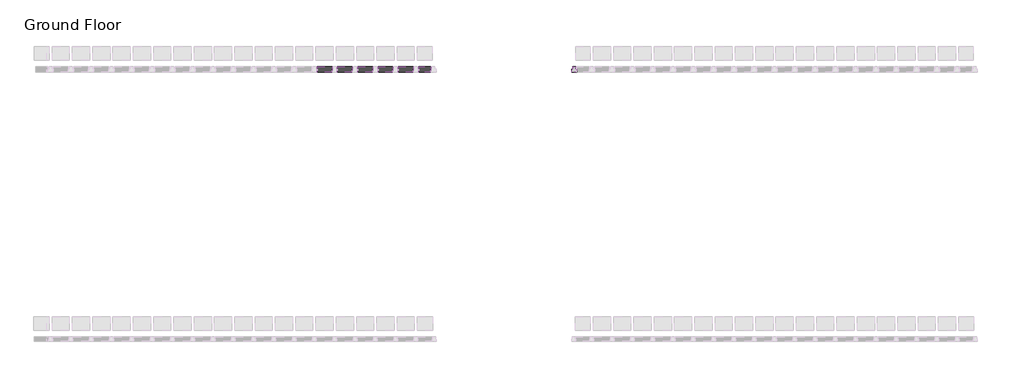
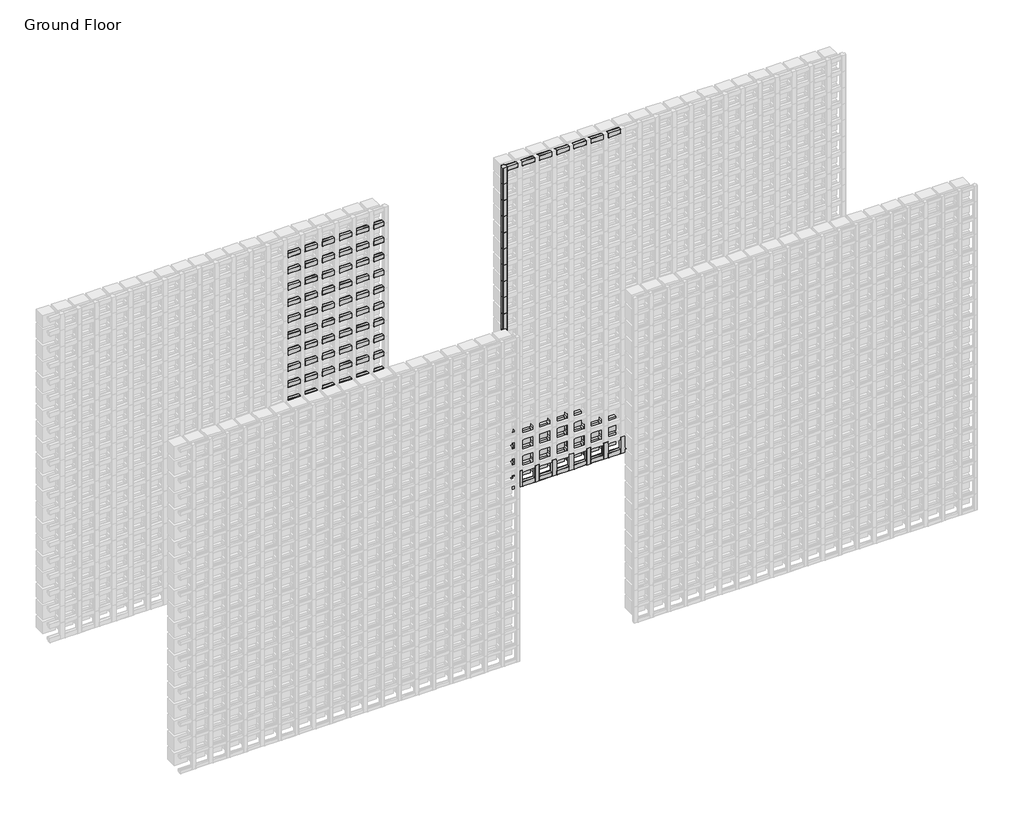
# One storey, part 117 of 350: 121 members, 19 plates.
"""IFC4 building model written with IfcOpenShell, lengths in millimetres."""

from ifc_helpers import new_model, si_unit, origin, place, context, project, spatial, transform, mapped, element, save
from components import rectangular_mullion_196cc38a, rectangular_mullion_c1c7f7ba, rectangular_mullion_84e0df2e, rectangular_mullion_ff8a000c, rectangular_mullion_dacc5c26, rectangular_mullion_b3ed1982, rectangular_mullion_71680797, rectangular_mullion_db99d02b, empty_system_panel_empty_5a3607ba, empty_system_panel_empty_abd50de3, empty_system_panel_empty_5e80e148, empty_system_panel_empty_f8a2f29b

model = new_model("IFC4")

# Units and contexts
model_context = context("Model", 3, world=origin())
ifc_project = project(units=[si_unit("LENGTHUNIT", "METRE", prefix="MILLI")], contexts=[model_context])

# Site, building, storey
site = spatial("IfcSite", under=ifc_project)
building = spatial("IfcBuilding", under=site)
storey = spatial("IfcBuildingStorey", under=building, Name="Ground Floor", Elevation=0.0)

# Members
placement = place(None, origin())
rectangular_mullion_shape = rectangular_mullion_196cc38a(model_context)
element("IfcMember", 1, ObjectType="Rectangular Mullion : Batten_Timber_Modinex_Austratus_Grid_Fin_40x40_AlaskanYellowCedar", at=placement, inside=storey, context=model_context, shape_type="MappedRepresentation", body=[
    mapped(rectangular_mullion_shape, transform((4876.4361639, 44968.2978302, 900.0), x_axis=(0.0, 0.0, 1.0), y_axis=(0.0, -1.0, 0.0), z_axis=(1.0, 0.0, 0.0))),
])
element("IfcMember", 2, ObjectType="Rectangular Mullion : Batten_Timber_Modinex_Austratus_Grid_Fin_40x40_AlaskanYellowCedar", at=placement, inside=storey, context=model_context, shape_type="MappedRepresentation", body=[
    mapped(rectangular_mullion_shape, transform((4876.4361639, 44968.2978302, 1050.0), x_axis=(0.0, 0.0, 1.0), y_axis=(0.0, -1.0, 0.0), z_axis=(1.0, 0.0, 0.0))),
])
element("IfcMember", 3, ObjectType="Rectangular Mullion : Batten_Timber_Modinex_Austratus_Grid_Fin_40x40_AlaskanYellowCedar", at=placement, inside=storey, context=model_context, shape_type="MappedRepresentation", body=[
    mapped(rectangular_mullion_shape, transform((4876.4361639, 44968.2978302, 1200.0), x_axis=(0.0, 0.0, 1.0), y_axis=(0.0, -1.0, 0.0), z_axis=(1.0, 0.0, 0.0))),
])
element("IfcMember", 4, ObjectType="Rectangular Mullion : Batten_Timber_Modinex_Austratus_Grid_Fin_40x40_AlaskanYellowCedar", at=placement, inside=storey, context=model_context, shape_type="MappedRepresentation", body=[
    mapped(rectangular_mullion_shape, transform((4876.4361639, 44968.2978302, 1350.0), x_axis=(0.0, 0.0, 1.0), y_axis=(0.0, -1.0, 0.0), z_axis=(1.0, 0.0, 0.0))),
])
element("IfcMember", 5, ObjectType="Rectangular Mullion : Batten_Timber_Modinex_Austratus_Grid_Fin_40x40_AlaskanYellowCedar", at=placement, inside=storey, context=model_context, shape_type="MappedRepresentation", body=[
    mapped(rectangular_mullion_shape, transform((4876.4361639, 44968.2978302, 1500.0), x_axis=(0.0, 0.0, 1.0), y_axis=(0.0, -1.0, 0.0), z_axis=(1.0, 0.0, 0.0))),
])
element("IfcMember", 6, ObjectType="Rectangular Mullion : Batten_Timber_Modinex_Austratus_Grid_Fin_40x40_AlaskanYellowCedar", at=placement, inside=storey, context=model_context, shape_type="MappedRepresentation", body=[
    mapped(rectangular_mullion_shape, transform((4876.4361639, 44968.2978302, 1650.0), x_axis=(0.0, 0.0, 1.0), y_axis=(0.0, -1.0, 0.0), z_axis=(1.0, 0.0, 0.0))),
])
element("IfcMember", 7, ObjectType="Rectangular Mullion : Batten_Timber_Modinex_Austratus_Grid_Fin_40x40_AlaskanYellowCedar", at=placement, inside=storey, context=model_context, shape_type="MappedRepresentation", body=[
    mapped(rectangular_mullion_shape, transform((4876.4361639, 44968.2978302, 1800.0), x_axis=(0.0, 0.0, 1.0), y_axis=(0.0, -1.0, 0.0), z_axis=(1.0, 0.0, 0.0))),
])
element("IfcMember", 8, ObjectType="Rectangular Mullion : Batten_Timber_Modinex_Austratus_Grid_Fin_40x40_AlaskanYellowCedar", at=placement, inside=storey, context=model_context, shape_type="MappedRepresentation", body=[
    mapped(rectangular_mullion_shape, transform((4876.4361639, 44968.2978302, 1950.0), x_axis=(0.0, 0.0, 1.0), y_axis=(0.0, -1.0, 0.0), z_axis=(1.0, 0.0, 0.0))),
])
element("IfcMember", 9, ObjectType="Rectangular Mullion : Batten_Timber_Modinex_Austratus_Grid_Fin_40x40_AlaskanYellowCedar", at=placement, inside=storey, context=model_context, shape_type="MappedRepresentation", body=[
    mapped(rectangular_mullion_shape, transform((4876.4361639, 44968.2978302, 2100.0), x_axis=(0.0, 0.0, 1.0), y_axis=(0.0, -1.0, 0.0), z_axis=(1.0, 0.0, 0.0))),
])
element("IfcMember", 10, ObjectType="Rectangular Mullion : Batten_Timber_Modinex_Austratus_Grid_Fin_40x40_AlaskanYellowCedar", at=placement, inside=storey, context=model_context, shape_type="MappedRepresentation", body=[
    mapped(rectangular_mullion_shape, transform((4876.4361639, 44968.2978302, 2250.0), x_axis=(0.0, 0.0, 1.0), y_axis=(0.0, -1.0, 0.0), z_axis=(1.0, 0.0, 0.0))),
])
element("IfcMember", 11, ObjectType="Rectangular Mullion : Batten_Timber_Modinex_Austratus_Grid_Fin_40x40_AlaskanYellowCedar", at=placement, inside=storey, context=model_context, shape_type="MappedRepresentation", body=[
    mapped(rectangular_mullion_shape, transform((4876.4361639, 44968.2978302, 2400.0), x_axis=(0.0, 0.0, 1.0), y_axis=(0.0, -1.0, 0.0), z_axis=(1.0, 0.0, 0.0))),
])
element("IfcMember", 12, ObjectType="Rectangular Mullion : Batten_Timber_Modinex_Austratus_Grid_Fin_40x40_AlaskanYellowCedar", at=placement, inside=storey, context=model_context, shape_type="MappedRepresentation", body=[
    mapped(rectangular_mullion_shape, transform((4876.4361639, 44968.2978302, 2550.0), x_axis=(0.0, 0.0, 1.0), y_axis=(0.0, -1.0, 0.0), z_axis=(1.0, 0.0, 0.0))),
])
element("IfcMember", 13, ObjectType="Rectangular Mullion : Batten_Timber_Modinex_Austratus_Grid_Fin_40x40_AlaskanYellowCedar", at=placement, inside=storey, context=model_context, shape_type="MappedRepresentation", body=[
    mapped(rectangular_mullion_shape, transform((4876.4361639, 44968.2978302, 2700.0), x_axis=(0.0, 0.0, 1.0), y_axis=(0.0, -1.0, 0.0), z_axis=(1.0, 0.0, 0.0))),
])
element("IfcMember", 14, ObjectType="Rectangular Mullion : Batten_Timber_Modinex_Austratus_Grid_Fin_40x40_AlaskanYellowCedar", at=placement, inside=storey, context=model_context, shape_type="MappedRepresentation", body=[
    mapped(rectangular_mullion_shape, transform((4876.4361639, 44968.2978302, 2850.0), x_axis=(0.0, 0.0, 1.0), y_axis=(0.0, -1.0, 0.0), z_axis=(1.0, 0.0, 0.0))),
])
rectangular_mullion_2_shape = rectangular_mullion_c1c7f7ba(model_context)
element("IfcMember", 15, ObjectType="Rectangular Mullion : Batten_Timber_Modinex_Austratus_Grid_Fin_40x40_AlaskanYellowCedar", at=placement, inside=storey, context=model_context, shape_type="MappedRepresentation", body=[
    mapped(rectangular_mullion_2_shape, transform((4146.4361642, 44968.2978302, 1050.0), x_axis=(0.0, 0.0, 1.0), y_axis=(0.0, -1.0, 0.0), z_axis=(1.0, 0.0, 0.0))),
])
element("IfcMember", 16, ObjectType="Rectangular Mullion : Batten_Timber_Modinex_Austratus_Grid_Fin_40x40_AlaskanYellowCedar", at=placement, inside=storey, context=model_context, shape_type="MappedRepresentation", body=[
    mapped(rectangular_mullion_2_shape, transform((4296.4361642, 44968.2978302, 1050.0), x_axis=(0.0, 0.0, 1.0), y_axis=(0.0, -1.0, 0.0), z_axis=(1.0, 0.0, 0.0))),
])
element("IfcMember", 17, ObjectType="Rectangular Mullion : Batten_Timber_Modinex_Austratus_Grid_Fin_40x40_AlaskanYellowCedar", at=placement, inside=storey, context=model_context, shape_type="MappedRepresentation", body=[
    mapped(rectangular_mullion_2_shape, transform((4446.4361642, 44968.2978302, 1050.0), x_axis=(0.0, 0.0, 1.0), y_axis=(0.0, -1.0, 0.0), z_axis=(1.0, 0.0, 0.0))),
])
element("IfcMember", 18, ObjectType="Rectangular Mullion : Batten_Timber_Modinex_Austratus_Grid_Fin_40x40_AlaskanYellowCedar", at=placement, inside=storey, context=model_context, shape_type="MappedRepresentation", body=[
    mapped(rectangular_mullion_2_shape, transform((4596.4361642, 44968.2978302, 1050.0), x_axis=(0.0, 0.0, 1.0), y_axis=(0.0, -1.0, 0.0), z_axis=(1.0, 0.0, 0.0))),
])
element("IfcMember", 19, ObjectType="Rectangular Mullion : Batten_Timber_Modinex_Austratus_Grid_Fin_40x40_AlaskanYellowCedar", at=placement, inside=storey, context=model_context, shape_type="MappedRepresentation", body=[
    mapped(rectangular_mullion_2_shape, transform((4746.4361642, 44968.2978302, 1050.0), x_axis=(0.0, 0.0, 1.0), y_axis=(0.0, -1.0, 0.0), z_axis=(1.0, 0.0, 0.0))),
])
element("IfcMember", 20, ObjectType="Rectangular Mullion : Batten_Timber_Modinex_Austratus_Grid_Fin_40x40_AlaskanYellowCedar", at=placement, inside=storey, context=model_context, shape_type="MappedRepresentation", body=[
    mapped(rectangular_mullion_2_shape, transform((4146.4361642, 44968.2978302, 1200.0), x_axis=(0.0, 0.0, 1.0), y_axis=(0.0, -1.0, 0.0), z_axis=(1.0, 0.0, 0.0))),
])
element("IfcMember", 21, ObjectType="Rectangular Mullion : Batten_Timber_Modinex_Austratus_Grid_Fin_40x40_AlaskanYellowCedar", at=placement, inside=storey, context=model_context, shape_type="MappedRepresentation", body=[
    mapped(rectangular_mullion_2_shape, transform((4296.4361642, 44968.2978302, 1200.0), x_axis=(0.0, 0.0, 1.0), y_axis=(0.0, -1.0, 0.0), z_axis=(1.0, 0.0, 0.0))),
])
element("IfcMember", 22, ObjectType="Rectangular Mullion : Batten_Timber_Modinex_Austratus_Grid_Fin_40x40_AlaskanYellowCedar", at=placement, inside=storey, context=model_context, shape_type="MappedRepresentation", body=[
    mapped(rectangular_mullion_2_shape, transform((4446.4361642, 44968.2978302, 1200.0), x_axis=(0.0, 0.0, 1.0), y_axis=(0.0, -1.0, 0.0), z_axis=(1.0, 0.0, 0.0))),
])
element("IfcMember", 23, ObjectType="Rectangular Mullion : Batten_Timber_Modinex_Austratus_Grid_Fin_40x40_AlaskanYellowCedar", at=placement, inside=storey, context=model_context, shape_type="MappedRepresentation", body=[
    mapped(rectangular_mullion_2_shape, transform((4596.4361642, 44968.2978302, 1200.0), x_axis=(0.0, 0.0, 1.0), y_axis=(0.0, -1.0, 0.0), z_axis=(1.0, 0.0, 0.0))),
])
element("IfcMember", 24, ObjectType="Rectangular Mullion : Batten_Timber_Modinex_Austratus_Grid_Fin_40x40_AlaskanYellowCedar", at=placement, inside=storey, context=model_context, shape_type="MappedRepresentation", body=[
    mapped(rectangular_mullion_2_shape, transform((4746.4361642, 44968.2978302, 1200.0), x_axis=(0.0, 0.0, 1.0), y_axis=(0.0, -1.0, 0.0), z_axis=(1.0, 0.0, 0.0))),
])
element("IfcMember", 25, ObjectType="Rectangular Mullion : Batten_Timber_Modinex_Austratus_Grid_Fin_40x40_AlaskanYellowCedar", at=placement, inside=storey, context=model_context, shape_type="MappedRepresentation", body=[
    mapped(rectangular_mullion_2_shape, transform((4146.4361642, 44968.2978302, 1350.0), x_axis=(0.0, 0.0, 1.0), y_axis=(0.0, -1.0, 0.0), z_axis=(1.0, 0.0, 0.0))),
])
element("IfcMember", 26, ObjectType="Rectangular Mullion : Batten_Timber_Modinex_Austratus_Grid_Fin_40x40_AlaskanYellowCedar", at=placement, inside=storey, context=model_context, shape_type="MappedRepresentation", body=[
    mapped(rectangular_mullion_2_shape, transform((4296.4361642, 44968.2978302, 1350.0), x_axis=(0.0, 0.0, 1.0), y_axis=(0.0, -1.0, 0.0), z_axis=(1.0, 0.0, 0.0))),
])
element("IfcMember", 27, ObjectType="Rectangular Mullion : Batten_Timber_Modinex_Austratus_Grid_Fin_40x40_AlaskanYellowCedar", at=placement, inside=storey, context=model_context, shape_type="MappedRepresentation", body=[
    mapped(rectangular_mullion_2_shape, transform((4446.4361642, 44968.2978302, 1350.0), x_axis=(0.0, 0.0, 1.0), y_axis=(0.0, -1.0, 0.0), z_axis=(1.0, 0.0, 0.0))),
])
element("IfcMember", 28, ObjectType="Rectangular Mullion : Batten_Timber_Modinex_Austratus_Grid_Fin_40x40_AlaskanYellowCedar", at=placement, inside=storey, context=model_context, shape_type="MappedRepresentation", body=[
    mapped(rectangular_mullion_2_shape, transform((4596.4361642, 44968.2978302, 1350.0), x_axis=(0.0, 0.0, 1.0), y_axis=(0.0, -1.0, 0.0), z_axis=(1.0, 0.0, 0.0))),
])
element("IfcMember", 29, ObjectType="Rectangular Mullion : Batten_Timber_Modinex_Austratus_Grid_Fin_40x40_AlaskanYellowCedar", at=placement, inside=storey, context=model_context, shape_type="MappedRepresentation", body=[
    mapped(rectangular_mullion_2_shape, transform((4746.4361642, 44968.2978302, 1350.0), x_axis=(0.0, 0.0, 1.0), y_axis=(0.0, -1.0, 0.0), z_axis=(1.0, 0.0, 0.0))),
])
element("IfcMember", 30, ObjectType="Rectangular Mullion : Batten_Timber_Modinex_Austratus_Grid_Fin_40x40_AlaskanYellowCedar", at=placement, inside=storey, context=model_context, shape_type="MappedRepresentation", body=[
    mapped(rectangular_mullion_2_shape, transform((4146.4361642, 44968.2978302, 1500.0), x_axis=(0.0, 0.0, 1.0), y_axis=(0.0, -1.0, 0.0), z_axis=(1.0, 0.0, 0.0))),
])
element("IfcMember", 31, ObjectType="Rectangular Mullion : Batten_Timber_Modinex_Austratus_Grid_Fin_40x40_AlaskanYellowCedar", at=placement, inside=storey, context=model_context, shape_type="MappedRepresentation", body=[
    mapped(rectangular_mullion_2_shape, transform((4296.4361642, 44968.2978302, 1500.0), x_axis=(0.0, 0.0, 1.0), y_axis=(0.0, -1.0, 0.0), z_axis=(1.0, 0.0, 0.0))),
])
element("IfcMember", 32, ObjectType="Rectangular Mullion : Batten_Timber_Modinex_Austratus_Grid_Fin_40x40_AlaskanYellowCedar", at=placement, inside=storey, context=model_context, shape_type="MappedRepresentation", body=[
    mapped(rectangular_mullion_2_shape, transform((4446.4361642, 44968.2978302, 1500.0), x_axis=(0.0, 0.0, 1.0), y_axis=(0.0, -1.0, 0.0), z_axis=(1.0, 0.0, 0.0))),
])
element("IfcMember", 33, ObjectType="Rectangular Mullion : Batten_Timber_Modinex_Austratus_Grid_Fin_40x40_AlaskanYellowCedar", at=placement, inside=storey, context=model_context, shape_type="MappedRepresentation", body=[
    mapped(rectangular_mullion_2_shape, transform((4596.4361642, 44968.2978302, 1500.0), x_axis=(0.0, 0.0, 1.0), y_axis=(0.0, -1.0, 0.0), z_axis=(1.0, 0.0, 0.0))),
])
element("IfcMember", 34, ObjectType="Rectangular Mullion : Batten_Timber_Modinex_Austratus_Grid_Fin_40x40_AlaskanYellowCedar", at=placement, inside=storey, context=model_context, shape_type="MappedRepresentation", body=[
    mapped(rectangular_mullion_2_shape, transform((4746.4361642, 44968.2978302, 1500.0), x_axis=(0.0, 0.0, 1.0), y_axis=(0.0, -1.0, 0.0), z_axis=(1.0, 0.0, 0.0))),
])
element("IfcMember", 35, ObjectType="Rectangular Mullion : Batten_Timber_Modinex_Austratus_Grid_Fin_40x40_AlaskanYellowCedar", at=placement, inside=storey, context=model_context, shape_type="MappedRepresentation", body=[
    mapped(rectangular_mullion_2_shape, transform((4146.4361642, 44968.2978302, 1650.0), x_axis=(0.0, 0.0, 1.0), y_axis=(0.0, -1.0, 0.0), z_axis=(1.0, 0.0, 0.0))),
])
element("IfcMember", 36, ObjectType="Rectangular Mullion : Batten_Timber_Modinex_Austratus_Grid_Fin_40x40_AlaskanYellowCedar", at=placement, inside=storey, context=model_context, shape_type="MappedRepresentation", body=[
    mapped(rectangular_mullion_2_shape, transform((4296.4361642, 44968.2978302, 1650.0), x_axis=(0.0, 0.0, 1.0), y_axis=(0.0, -1.0, 0.0), z_axis=(1.0, 0.0, 0.0))),
])
element("IfcMember", 37, ObjectType="Rectangular Mullion : Batten_Timber_Modinex_Austratus_Grid_Fin_40x40_AlaskanYellowCedar", at=placement, inside=storey, context=model_context, shape_type="MappedRepresentation", body=[
    mapped(rectangular_mullion_2_shape, transform((4446.4361642, 44968.2978302, 1650.0), x_axis=(0.0, 0.0, 1.0), y_axis=(0.0, -1.0, 0.0), z_axis=(1.0, 0.0, 0.0))),
])
element("IfcMember", 38, ObjectType="Rectangular Mullion : Batten_Timber_Modinex_Austratus_Grid_Fin_40x40_AlaskanYellowCedar", at=placement, inside=storey, context=model_context, shape_type="MappedRepresentation", body=[
    mapped(rectangular_mullion_2_shape, transform((4596.4361642, 44968.2978302, 1650.0), x_axis=(0.0, 0.0, 1.0), y_axis=(0.0, -1.0, 0.0), z_axis=(1.0, 0.0, 0.0))),
])
element("IfcMember", 39, ObjectType="Rectangular Mullion : Batten_Timber_Modinex_Austratus_Grid_Fin_40x40_AlaskanYellowCedar", at=placement, inside=storey, context=model_context, shape_type="MappedRepresentation", body=[
    mapped(rectangular_mullion_2_shape, transform((4746.4361642, 44968.2978302, 1650.0), x_axis=(0.0, 0.0, 1.0), y_axis=(0.0, -1.0, 0.0), z_axis=(1.0, 0.0, 0.0))),
])
element("IfcMember", 40, ObjectType="Rectangular Mullion : Batten_Timber_Modinex_Austratus_Grid_Fin_40x40_AlaskanYellowCedar", at=placement, inside=storey, context=model_context, shape_type="MappedRepresentation", body=[
    mapped(rectangular_mullion_2_shape, transform((4146.4361642, 44968.2978302, 1800.0), x_axis=(0.0, 0.0, 1.0), y_axis=(0.0, -1.0, 0.0), z_axis=(1.0, 0.0, 0.0))),
])
element("IfcMember", 41, ObjectType="Rectangular Mullion : Batten_Timber_Modinex_Austratus_Grid_Fin_40x40_AlaskanYellowCedar", at=placement, inside=storey, context=model_context, shape_type="MappedRepresentation", body=[
    mapped(rectangular_mullion_2_shape, transform((4296.4361642, 44968.2978302, 1800.0), x_axis=(0.0, 0.0, 1.0), y_axis=(0.0, -1.0, 0.0), z_axis=(1.0, 0.0, 0.0))),
])
element("IfcMember", 42, ObjectType="Rectangular Mullion : Batten_Timber_Modinex_Austratus_Grid_Fin_40x40_AlaskanYellowCedar", at=placement, inside=storey, context=model_context, shape_type="MappedRepresentation", body=[
    mapped(rectangular_mullion_2_shape, transform((4446.4361642, 44968.2978302, 1800.0), x_axis=(0.0, 0.0, 1.0), y_axis=(0.0, -1.0, 0.0), z_axis=(1.0, 0.0, 0.0))),
])
element("IfcMember", 43, ObjectType="Rectangular Mullion : Batten_Timber_Modinex_Austratus_Grid_Fin_40x40_AlaskanYellowCedar", at=placement, inside=storey, context=model_context, shape_type="MappedRepresentation", body=[
    mapped(rectangular_mullion_2_shape, transform((4596.4361642, 44968.2978302, 1800.0), x_axis=(0.0, 0.0, 1.0), y_axis=(0.0, -1.0, 0.0), z_axis=(1.0, 0.0, 0.0))),
])
element("IfcMember", 44, ObjectType="Rectangular Mullion : Batten_Timber_Modinex_Austratus_Grid_Fin_40x40_AlaskanYellowCedar", at=placement, inside=storey, context=model_context, shape_type="MappedRepresentation", body=[
    mapped(rectangular_mullion_2_shape, transform((4746.4361642, 44968.2978302, 1800.0), x_axis=(0.0, 0.0, 1.0), y_axis=(0.0, -1.0, 0.0), z_axis=(1.0, 0.0, 0.0))),
])
element("IfcMember", 45, ObjectType="Rectangular Mullion : Batten_Timber_Modinex_Austratus_Grid_Fin_40x40_AlaskanYellowCedar", at=placement, inside=storey, context=model_context, shape_type="MappedRepresentation", body=[
    mapped(rectangular_mullion_2_shape, transform((4146.4361642, 44968.2978302, 1950.0), x_axis=(0.0, 0.0, 1.0), y_axis=(0.0, -1.0, 0.0), z_axis=(1.0, 0.0, 0.0))),
])
element("IfcMember", 46, ObjectType="Rectangular Mullion : Batten_Timber_Modinex_Austratus_Grid_Fin_40x40_AlaskanYellowCedar", at=placement, inside=storey, context=model_context, shape_type="MappedRepresentation", body=[
    mapped(rectangular_mullion_2_shape, transform((4296.4361642, 44968.2978302, 1950.0), x_axis=(0.0, 0.0, 1.0), y_axis=(0.0, -1.0, 0.0), z_axis=(1.0, 0.0, 0.0))),
])
element("IfcMember", 47, ObjectType="Rectangular Mullion : Batten_Timber_Modinex_Austratus_Grid_Fin_40x40_AlaskanYellowCedar", at=placement, inside=storey, context=model_context, shape_type="MappedRepresentation", body=[
    mapped(rectangular_mullion_2_shape, transform((4446.4361642, 44968.2978302, 1950.0), x_axis=(0.0, 0.0, 1.0), y_axis=(0.0, -1.0, 0.0), z_axis=(1.0, 0.0, 0.0))),
])
element("IfcMember", 48, ObjectType="Rectangular Mullion : Batten_Timber_Modinex_Austratus_Grid_Fin_40x40_AlaskanYellowCedar", at=placement, inside=storey, context=model_context, shape_type="MappedRepresentation", body=[
    mapped(rectangular_mullion_2_shape, transform((4596.4361642, 44968.2978302, 1950.0), x_axis=(0.0, 0.0, 1.0), y_axis=(0.0, -1.0, 0.0), z_axis=(1.0, 0.0, 0.0))),
])
element("IfcMember", 49, ObjectType="Rectangular Mullion : Batten_Timber_Modinex_Austratus_Grid_Fin_40x40_AlaskanYellowCedar", at=placement, inside=storey, context=model_context, shape_type="MappedRepresentation", body=[
    mapped(rectangular_mullion_2_shape, transform((4746.4361642, 44968.2978302, 1950.0), x_axis=(0.0, 0.0, 1.0), y_axis=(0.0, -1.0, 0.0), z_axis=(1.0, 0.0, 0.0))),
])
element("IfcMember", 50, ObjectType="Rectangular Mullion : Batten_Timber_Modinex_Austratus_Grid_Fin_40x40_AlaskanYellowCedar", at=placement, inside=storey, context=model_context, shape_type="MappedRepresentation", body=[
    mapped(rectangular_mullion_2_shape, transform((4146.4361642, 44968.2978302, 2100.0), x_axis=(0.0, 0.0, 1.0), y_axis=(0.0, -1.0, 0.0), z_axis=(1.0, 0.0, 0.0))),
])
element("IfcMember", 51, ObjectType="Rectangular Mullion : Batten_Timber_Modinex_Austratus_Grid_Fin_40x40_AlaskanYellowCedar", at=placement, inside=storey, context=model_context, shape_type="MappedRepresentation", body=[
    mapped(rectangular_mullion_2_shape, transform((4296.4361642, 44968.2978302, 2100.0), x_axis=(0.0, 0.0, 1.0), y_axis=(0.0, -1.0, 0.0), z_axis=(1.0, 0.0, 0.0))),
])
element("IfcMember", 52, ObjectType="Rectangular Mullion : Batten_Timber_Modinex_Austratus_Grid_Fin_40x40_AlaskanYellowCedar", at=placement, inside=storey, context=model_context, shape_type="MappedRepresentation", body=[
    mapped(rectangular_mullion_2_shape, transform((4446.4361642, 44968.2978302, 2100.0), x_axis=(0.0, 0.0, 1.0), y_axis=(0.0, -1.0, 0.0), z_axis=(1.0, 0.0, 0.0))),
])
element("IfcMember", 53, ObjectType="Rectangular Mullion : Batten_Timber_Modinex_Austratus_Grid_Fin_40x40_AlaskanYellowCedar", at=placement, inside=storey, context=model_context, shape_type="MappedRepresentation", body=[
    mapped(rectangular_mullion_2_shape, transform((4596.4361642, 44968.2978302, 2100.0), x_axis=(0.0, 0.0, 1.0), y_axis=(0.0, -1.0, 0.0), z_axis=(1.0, 0.0, 0.0))),
])
element("IfcMember", 54, ObjectType="Rectangular Mullion : Batten_Timber_Modinex_Austratus_Grid_Fin_40x40_AlaskanYellowCedar", at=placement, inside=storey, context=model_context, shape_type="MappedRepresentation", body=[
    mapped(rectangular_mullion_2_shape, transform((4746.4361642, 44968.2978302, 2100.0), x_axis=(0.0, 0.0, 1.0), y_axis=(0.0, -1.0, 0.0), z_axis=(1.0, 0.0, 0.0))),
])
element("IfcMember", 55, ObjectType="Rectangular Mullion : Batten_Timber_Modinex_Austratus_Grid_Fin_40x40_AlaskanYellowCedar", at=placement, inside=storey, context=model_context, shape_type="MappedRepresentation", body=[
    mapped(rectangular_mullion_2_shape, transform((4146.4361642, 44968.2978302, 2250.0), x_axis=(0.0, 0.0, 1.0), y_axis=(0.0, -1.0, 0.0), z_axis=(1.0, 0.0, 0.0))),
])
element("IfcMember", 56, ObjectType="Rectangular Mullion : Batten_Timber_Modinex_Austratus_Grid_Fin_40x40_AlaskanYellowCedar", at=placement, inside=storey, context=model_context, shape_type="MappedRepresentation", body=[
    mapped(rectangular_mullion_2_shape, transform((4296.4361642, 44968.2978302, 2250.0), x_axis=(0.0, 0.0, 1.0), y_axis=(0.0, -1.0, 0.0), z_axis=(1.0, 0.0, 0.0))),
])
element("IfcMember", 57, ObjectType="Rectangular Mullion : Batten_Timber_Modinex_Austratus_Grid_Fin_40x40_AlaskanYellowCedar", at=placement, inside=storey, context=model_context, shape_type="MappedRepresentation", body=[
    mapped(rectangular_mullion_2_shape, transform((4446.4361642, 44968.2978302, 2250.0), x_axis=(0.0, 0.0, 1.0), y_axis=(0.0, -1.0, 0.0), z_axis=(1.0, 0.0, 0.0))),
])
element("IfcMember", 58, ObjectType="Rectangular Mullion : Batten_Timber_Modinex_Austratus_Grid_Fin_40x40_AlaskanYellowCedar", at=placement, inside=storey, context=model_context, shape_type="MappedRepresentation", body=[
    mapped(rectangular_mullion_2_shape, transform((4596.4361642, 44968.2978302, 2250.0), x_axis=(0.0, 0.0, 1.0), y_axis=(0.0, -1.0, 0.0), z_axis=(1.0, 0.0, 0.0))),
])
element("IfcMember", 59, ObjectType="Rectangular Mullion : Batten_Timber_Modinex_Austratus_Grid_Fin_40x40_AlaskanYellowCedar", at=placement, inside=storey, context=model_context, shape_type="MappedRepresentation", body=[
    mapped(rectangular_mullion_2_shape, transform((4746.4361642, 44968.2978302, 2250.0), x_axis=(0.0, 0.0, 1.0), y_axis=(0.0, -1.0, 0.0), z_axis=(1.0, 0.0, 0.0))),
])
element("IfcMember", 60, ObjectType="Rectangular Mullion : Batten_Timber_Modinex_Austratus_Grid_Fin_40x40_AlaskanYellowCedar", at=placement, inside=storey, context=model_context, shape_type="MappedRepresentation", body=[
    mapped(rectangular_mullion_2_shape, transform((4146.4361642, 44968.2978302, 2400.0), x_axis=(0.0, 0.0, 1.0), y_axis=(0.0, -1.0, 0.0), z_axis=(1.0, 0.0, 0.0))),
])
element("IfcMember", 61, ObjectType="Rectangular Mullion : Batten_Timber_Modinex_Austratus_Grid_Fin_40x40_AlaskanYellowCedar", at=placement, inside=storey, context=model_context, shape_type="MappedRepresentation", body=[
    mapped(rectangular_mullion_2_shape, transform((4296.4361642, 44968.2978302, 2400.0), x_axis=(0.0, 0.0, 1.0), y_axis=(0.0, -1.0, 0.0), z_axis=(1.0, 0.0, 0.0))),
])
element("IfcMember", 62, ObjectType="Rectangular Mullion : Batten_Timber_Modinex_Austratus_Grid_Fin_40x40_AlaskanYellowCedar", at=placement, inside=storey, context=model_context, shape_type="MappedRepresentation", body=[
    mapped(rectangular_mullion_2_shape, transform((4446.4361642, 44968.2978302, 2400.0), x_axis=(0.0, 0.0, 1.0), y_axis=(0.0, -1.0, 0.0), z_axis=(1.0, 0.0, 0.0))),
])
element("IfcMember", 63, ObjectType="Rectangular Mullion : Batten_Timber_Modinex_Austratus_Grid_Fin_40x40_AlaskanYellowCedar", at=placement, inside=storey, context=model_context, shape_type="MappedRepresentation", body=[
    mapped(rectangular_mullion_2_shape, transform((4596.4361642, 44968.2978302, 2400.0), x_axis=(0.0, 0.0, 1.0), y_axis=(0.0, -1.0, 0.0), z_axis=(1.0, 0.0, 0.0))),
])
element("IfcMember", 64, ObjectType="Rectangular Mullion : Batten_Timber_Modinex_Austratus_Grid_Fin_40x40_AlaskanYellowCedar", at=placement, inside=storey, context=model_context, shape_type="MappedRepresentation", body=[
    mapped(rectangular_mullion_2_shape, transform((4746.4361642, 44968.2978302, 2400.0), x_axis=(0.0, 0.0, 1.0), y_axis=(0.0, -1.0, 0.0), z_axis=(1.0, 0.0, 0.0))),
])
element("IfcMember", 65, ObjectType="Rectangular Mullion : Batten_Timber_Modinex_Austratus_Grid_Fin_40x40_AlaskanYellowCedar", at=placement, inside=storey, context=model_context, shape_type="MappedRepresentation", body=[
    mapped(rectangular_mullion_2_shape, transform((4146.4361642, 44968.2978302, 2550.0), x_axis=(0.0, 0.0, 1.0), y_axis=(0.0, -1.0, 0.0), z_axis=(1.0, 0.0, 0.0))),
])
element("IfcMember", 66, ObjectType="Rectangular Mullion : Batten_Timber_Modinex_Austratus_Grid_Fin_40x40_AlaskanYellowCedar", at=placement, inside=storey, context=model_context, shape_type="MappedRepresentation", body=[
    mapped(rectangular_mullion_2_shape, transform((4296.4361642, 44968.2978302, 2550.0), x_axis=(0.0, 0.0, 1.0), y_axis=(0.0, -1.0, 0.0), z_axis=(1.0, 0.0, 0.0))),
])
element("IfcMember", 67, ObjectType="Rectangular Mullion : Batten_Timber_Modinex_Austratus_Grid_Fin_40x40_AlaskanYellowCedar", at=placement, inside=storey, context=model_context, shape_type="MappedRepresentation", body=[
    mapped(rectangular_mullion_2_shape, transform((4446.4361642, 44968.2978302, 2550.0), x_axis=(0.0, 0.0, 1.0), y_axis=(0.0, -1.0, 0.0), z_axis=(1.0, 0.0, 0.0))),
])
element("IfcMember", 68, ObjectType="Rectangular Mullion : Batten_Timber_Modinex_Austratus_Grid_Fin_40x40_AlaskanYellowCedar", at=placement, inside=storey, context=model_context, shape_type="MappedRepresentation", body=[
    mapped(rectangular_mullion_2_shape, transform((4596.4361642, 44968.2978302, 2550.0), x_axis=(0.0, 0.0, 1.0), y_axis=(0.0, -1.0, 0.0), z_axis=(1.0, 0.0, 0.0))),
])
element("IfcMember", 69, ObjectType="Rectangular Mullion : Batten_Timber_Modinex_Austratus_Grid_Fin_40x40_AlaskanYellowCedar", at=placement, inside=storey, context=model_context, shape_type="MappedRepresentation", body=[
    mapped(rectangular_mullion_2_shape, transform((4746.4361642, 44968.2978302, 2550.0), x_axis=(0.0, 0.0, 1.0), y_axis=(0.0, -1.0, 0.0), z_axis=(1.0, 0.0, 0.0))),
])
element("IfcMember", 70, ObjectType="Rectangular Mullion : Batten_Timber_Modinex_Austratus_Grid_Fin_40x40_AlaskanYellowCedar", at=placement, inside=storey, context=model_context, shape_type="MappedRepresentation", body=[
    mapped(rectangular_mullion_2_shape, transform((4146.4361642, 44968.2978302, 2700.0), x_axis=(0.0, 0.0, 1.0), y_axis=(0.0, -1.0, 0.0), z_axis=(1.0, 0.0, 0.0))),
])
element("IfcMember", 71, ObjectType="Rectangular Mullion : Batten_Timber_Modinex_Austratus_Grid_Fin_40x40_AlaskanYellowCedar", at=placement, inside=storey, context=model_context, shape_type="MappedRepresentation", body=[
    mapped(rectangular_mullion_2_shape, transform((4296.4361642, 44968.2978302, 2700.0), x_axis=(0.0, 0.0, 1.0), y_axis=(0.0, -1.0, 0.0), z_axis=(1.0, 0.0, 0.0))),
])
element("IfcMember", 72, ObjectType="Rectangular Mullion : Batten_Timber_Modinex_Austratus_Grid_Fin_40x40_AlaskanYellowCedar", at=placement, inside=storey, context=model_context, shape_type="MappedRepresentation", body=[
    mapped(rectangular_mullion_2_shape, transform((4446.4361642, 44968.2978302, 2700.0), x_axis=(0.0, 0.0, 1.0), y_axis=(0.0, -1.0, 0.0), z_axis=(1.0, 0.0, 0.0))),
])
element("IfcMember", 73, ObjectType="Rectangular Mullion : Batten_Timber_Modinex_Austratus_Grid_Fin_40x40_AlaskanYellowCedar", at=placement, inside=storey, context=model_context, shape_type="MappedRepresentation", body=[
    mapped(rectangular_mullion_2_shape, transform((4596.4361642, 44968.2978302, 2700.0), x_axis=(0.0, 0.0, 1.0), y_axis=(0.0, -1.0, 0.0), z_axis=(1.0, 0.0, 0.0))),
])
element("IfcMember", 74, ObjectType="Rectangular Mullion : Batten_Timber_Modinex_Austratus_Grid_Fin_40x40_AlaskanYellowCedar", at=placement, inside=storey, context=model_context, shape_type="MappedRepresentation", body=[
    mapped(rectangular_mullion_2_shape, transform((4746.4361642, 44968.2978302, 2700.0), x_axis=(0.0, 0.0, 1.0), y_axis=(0.0, -1.0, 0.0), z_axis=(1.0, 0.0, 0.0))),
])
element("IfcMember", 75, ObjectType="Rectangular Mullion : Batten_Timber_Modinex_Austratus_Grid_Fin_40x40_AlaskanYellowCedar", at=placement, inside=storey, context=model_context, shape_type="MappedRepresentation", body=[
    mapped(rectangular_mullion_2_shape, transform((4146.4361642, 44968.2978302, 2850.0), x_axis=(0.0, 0.0, 1.0), y_axis=(0.0, -1.0, 0.0), z_axis=(1.0, 0.0, 0.0))),
])
element("IfcMember", 76, ObjectType="Rectangular Mullion : Batten_Timber_Modinex_Austratus_Grid_Fin_40x40_AlaskanYellowCedar", at=placement, inside=storey, context=model_context, shape_type="MappedRepresentation", body=[
    mapped(rectangular_mullion_2_shape, transform((4296.4361642, 44968.2978302, 2850.0), x_axis=(0.0, 0.0, 1.0), y_axis=(0.0, -1.0, 0.0), z_axis=(1.0, 0.0, 0.0))),
])
element("IfcMember", 77, ObjectType="Rectangular Mullion : Batten_Timber_Modinex_Austratus_Grid_Fin_40x40_AlaskanYellowCedar", at=placement, inside=storey, context=model_context, shape_type="MappedRepresentation", body=[
    mapped(rectangular_mullion_2_shape, transform((4446.4361642, 44968.2978302, 2850.0), x_axis=(0.0, 0.0, 1.0), y_axis=(0.0, -1.0, 0.0), z_axis=(1.0, 0.0, 0.0))),
])
element("IfcMember", 78, ObjectType="Rectangular Mullion : Batten_Timber_Modinex_Austratus_Grid_Fin_40x40_AlaskanYellowCedar", at=placement, inside=storey, context=model_context, shape_type="MappedRepresentation", body=[
    mapped(rectangular_mullion_2_shape, transform((4596.4361642, 44968.2978302, 2850.0), x_axis=(0.0, 0.0, 1.0), y_axis=(0.0, -1.0, 0.0), z_axis=(1.0, 0.0, 0.0))),
])
element("IfcMember", 79, ObjectType="Rectangular Mullion : Batten_Timber_Modinex_Austratus_Grid_Fin_40x40_AlaskanYellowCedar", at=placement, inside=storey, context=model_context, shape_type="MappedRepresentation", body=[
    mapped(rectangular_mullion_2_shape, transform((4746.4361642, 44968.2978302, 2850.0), x_axis=(0.0, 0.0, 1.0), y_axis=(0.0, -1.0, 0.0), z_axis=(1.0, 0.0, 0.0))),
])
rectangular_mullion_3_shape = rectangular_mullion_84e0df2e(model_context)
element("IfcMember", 80, ObjectType="Rectangular Mullion : Batten_Timber_Modinex_Austratus_Grid_Fin_40x40_Blackbutt", at=placement, inside=storey, context=model_context, shape_type="MappedRepresentation", body=[
    mapped(rectangular_mullion_3_shape, transform((6066.4361642, 44968.2978302, 0.0), x_axis=(1.0, 0.0, 0.0), y_axis=(0.0, -1.0, 0.0), z_axis=(0.0, 0.0, -1.0))),
])
element("IfcMember", 81, ObjectType="Rectangular Mullion : Batten_Timber_Modinex_Austratus_Grid_Fin_40x40_Blackbutt", at=placement, inside=storey, context=model_context, shape_type="MappedRepresentation", body=[
    mapped(rectangular_mullion_3_shape, transform((6216.4361642, 44968.2978302, 0.0), x_axis=(1.0, 0.0, 0.0), y_axis=(0.0, -1.0, 0.0), z_axis=(0.0, 0.0, -1.0))),
])
element("IfcMember", 82, ObjectType="Rectangular Mullion : Batten_Timber_Modinex_Austratus_Grid_Fin_40x40_Blackbutt", at=placement, inside=storey, context=model_context, shape_type="MappedRepresentation", body=[
    mapped(rectangular_mullion_3_shape, transform((6366.4361642, 44968.2978302, 0.0), x_axis=(1.0, 0.0, 0.0), y_axis=(0.0, -1.0, 0.0), z_axis=(0.0, 0.0, -1.0))),
])
element("IfcMember", 83, ObjectType="Rectangular Mullion : Batten_Timber_Modinex_Austratus_Grid_Fin_40x40_Blackbutt", at=placement, inside=storey, context=model_context, shape_type="MappedRepresentation", body=[
    mapped(rectangular_mullion_3_shape, transform((6516.4361642, 44968.2978302, 0.0), x_axis=(1.0, 0.0, 0.0), y_axis=(0.0, -1.0, 0.0), z_axis=(0.0, 0.0, -1.0))),
])
element("IfcMember", 84, ObjectType="Rectangular Mullion : Batten_Timber_Modinex_Austratus_Grid_Fin_40x40_Blackbutt", at=placement, inside=storey, context=model_context, shape_type="MappedRepresentation", body=[
    mapped(rectangular_mullion_3_shape, transform((6666.4361642, 44968.2978302, 0.0), x_axis=(1.0, 0.0, 0.0), y_axis=(0.0, -1.0, 0.0), z_axis=(0.0, 0.0, -1.0))),
])
element("IfcMember", 85, ObjectType="Rectangular Mullion : Batten_Timber_Modinex_Austratus_Grid_Fin_40x40_Blackbutt", at=placement, inside=storey, context=model_context, shape_type="MappedRepresentation", body=[
    mapped(rectangular_mullion_3_shape, transform((6816.4361642, 44968.2978302, 0.0), x_axis=(1.0, 0.0, 0.0), y_axis=(0.0, -1.0, 0.0), z_axis=(0.0, 0.0, -1.0))),
])
element("IfcMember", 86, ObjectType="Rectangular Mullion : Batten_Timber_Modinex_Austratus_Grid_Fin_40x40_Blackbutt", at=placement, inside=storey, context=model_context, shape_type="MappedRepresentation", body=[
    mapped(rectangular_mullion_3_shape, transform((6966.4361642, 44968.2978302, 0.0), x_axis=(1.0, 0.0, 0.0), y_axis=(0.0, -1.0, 0.0), z_axis=(0.0, 0.0, -1.0))),
])
rectangular_mullion_4_shape = rectangular_mullion_ff8a000c(model_context)
element("IfcMember", 87, ObjectType="Rectangular Mullion : Batten_Timber_Modinex_Austratus_Grid_Fin_40x40_Blackbutt", at=placement, inside=storey, context=model_context, shape_type="MappedRepresentation", body=[
    mapped(rectangular_mullion_4_shape, transform((6046.4361642, 44968.2978302, 3000.0), x_axis=(0.0, 0.0, 1.0), y_axis=(0.0, -1.0, 0.0), z_axis=(1.0, 0.0, 0.0))),
])
rectangular_mullion_5_shape = rectangular_mullion_dacc5c26(model_context)
element("IfcMember", 88, ObjectType="Rectangular Mullion : Batten_Timber_Modinex_Austratus_Grid_Fin_40x40_Blackbutt", at=placement, inside=storey, context=model_context, shape_type="MappedRepresentation", body=[
    mapped(rectangular_mullion_5_shape, transform((6196.4361642, 44968.2978302, 3000.0), x_axis=(0.0, 0.0, 1.0), y_axis=(0.0, -1.0, 0.0), z_axis=(1.0, 0.0, 0.0))),
])
element("IfcMember", 89, ObjectType="Rectangular Mullion : Batten_Timber_Modinex_Austratus_Grid_Fin_40x40_Blackbutt", at=placement, inside=storey, context=model_context, shape_type="MappedRepresentation", body=[
    mapped(rectangular_mullion_5_shape, transform((6346.4361642, 44968.2978302, 3000.0), x_axis=(0.0, 0.0, 1.0), y_axis=(0.0, -1.0, 0.0), z_axis=(1.0, 0.0, 0.0))),
])
element("IfcMember", 90, ObjectType="Rectangular Mullion : Batten_Timber_Modinex_Austratus_Grid_Fin_40x40_Blackbutt", at=placement, inside=storey, context=model_context, shape_type="MappedRepresentation", body=[
    mapped(rectangular_mullion_5_shape, transform((6496.4361642, 44968.2978302, 3000.0), x_axis=(0.0, 0.0, 1.0), y_axis=(0.0, -1.0, 0.0), z_axis=(1.0, 0.0, 0.0))),
])
element("IfcMember", 91, ObjectType="Rectangular Mullion : Batten_Timber_Modinex_Austratus_Grid_Fin_40x40_Blackbutt", at=placement, inside=storey, context=model_context, shape_type="MappedRepresentation", body=[
    mapped(rectangular_mullion_5_shape, transform((6646.4361642, 44968.2978302, 3000.0), x_axis=(0.0, 0.0, 1.0), y_axis=(0.0, -1.0, 0.0), z_axis=(1.0, 0.0, 0.0))),
])
element("IfcMember", 92, ObjectType="Rectangular Mullion : Batten_Timber_Modinex_Austratus_Grid_Fin_40x40_Blackbutt", at=placement, inside=storey, context=model_context, shape_type="MappedRepresentation", body=[
    mapped(rectangular_mullion_5_shape, transform((6796.4361642, 44968.2978302, 3000.0), x_axis=(0.0, 0.0, 1.0), y_axis=(0.0, -1.0, 0.0), z_axis=(1.0, 0.0, 0.0))),
])
element("IfcMember", 93, ObjectType="Rectangular Mullion : Batten_Timber_Modinex_Austratus_Grid_Fin_40x40_Blackbutt", at=placement, inside=storey, context=model_context, shape_type="MappedRepresentation", body=[
    mapped(rectangular_mullion_5_shape, transform((6946.4361642, 44968.2978302, 3000.0), x_axis=(0.0, 0.0, 1.0), y_axis=(0.0, -1.0, 0.0), z_axis=(1.0, 0.0, 0.0))),
])
rectangular_mullion_6_shape = rectangular_mullion_b3ed1982(model_context)
element("IfcMember", 94, ObjectType="Rectangular Mullion : Batten_Timber_Modinex_Austratus_Grid_Fin_40x40_Blackbutt", at=placement, inside=storey, context=model_context, shape_type="MappedRepresentation", body=[
    mapped(rectangular_mullion_6_shape, transform((5956.4361639, 44968.2978302, 0.0), x_axis=(0.0, 0.0, -1.0), y_axis=(0.0, -1.0, 0.0), z_axis=(-1.0, 0.0, 0.0))),
])
rectangular_mullion_7_shape = rectangular_mullion_71680797(model_context)
element("IfcMember", 95, ObjectType="Rectangular Mullion : Batten_Timber_Modinex_Austratus_Grid_Fin_40x40_Blackbutt", at=placement, inside=storey, context=model_context, shape_type="MappedRepresentation", body=[
    mapped(rectangular_mullion_7_shape, transform((6086.4361642, 44968.2978302, 0.0), x_axis=(0.0, 0.0, -1.0), y_axis=(0.0, -1.0, 0.0), z_axis=(-1.0, 0.0, 0.0))),
])
element("IfcMember", 96, ObjectType="Rectangular Mullion : Batten_Timber_Modinex_Austratus_Grid_Fin_40x40_Blackbutt", at=placement, inside=storey, context=model_context, shape_type="MappedRepresentation", body=[
    mapped(rectangular_mullion_7_shape, transform((6236.4361642, 44968.2978302, 0.0), x_axis=(0.0, 0.0, -1.0), y_axis=(0.0, -1.0, 0.0), z_axis=(-1.0, 0.0, 0.0))),
])
element("IfcMember", 97, ObjectType="Rectangular Mullion : Batten_Timber_Modinex_Austratus_Grid_Fin_40x40_Blackbutt", at=placement, inside=storey, context=model_context, shape_type="MappedRepresentation", body=[
    mapped(rectangular_mullion_7_shape, transform((6386.4361642, 44968.2978302, 0.0), x_axis=(0.0, 0.0, -1.0), y_axis=(0.0, -1.0, 0.0), z_axis=(-1.0, 0.0, 0.0))),
])
element("IfcMember", 98, ObjectType="Rectangular Mullion : Batten_Timber_Modinex_Austratus_Grid_Fin_40x40_Blackbutt", at=placement, inside=storey, context=model_context, shape_type="MappedRepresentation", body=[
    mapped(rectangular_mullion_7_shape, transform((6536.4361642, 44968.2978302, 0.0), x_axis=(0.0, 0.0, -1.0), y_axis=(0.0, -1.0, 0.0), z_axis=(-1.0, 0.0, 0.0))),
])
element("IfcMember", 99, ObjectType="Rectangular Mullion : Batten_Timber_Modinex_Austratus_Grid_Fin_40x40_Blackbutt", at=placement, inside=storey, context=model_context, shape_type="MappedRepresentation", body=[
    mapped(rectangular_mullion_7_shape, transform((6686.4361642, 44968.2978302, 0.0), x_axis=(0.0, 0.0, -1.0), y_axis=(0.0, -1.0, 0.0), z_axis=(-1.0, 0.0, 0.0))),
])
element("IfcMember", 100, ObjectType="Rectangular Mullion : Batten_Timber_Modinex_Austratus_Grid_Fin_40x40_Blackbutt", at=placement, inside=storey, context=model_context, shape_type="MappedRepresentation", body=[
    mapped(rectangular_mullion_7_shape, transform((6836.4361642, 44968.2978302, 0.0), x_axis=(0.0, 0.0, -1.0), y_axis=(0.0, -1.0, 0.0), z_axis=(-1.0, 0.0, 0.0))),
])
element("IfcMember", 101, ObjectType="Rectangular Mullion : Batten_Timber_Modinex_Austratus_Grid_Fin_40x40_Blackbutt", at=placement, inside=storey, context=model_context, shape_type="MappedRepresentation", body=[
    mapped(rectangular_mullion_7_shape, transform((6986.4361642, 44968.2978302, 0.0), x_axis=(0.0, 0.0, -1.0), y_axis=(0.0, -1.0, 0.0), z_axis=(-1.0, 0.0, 0.0))),
])
rectangular_mullion_8_shape = rectangular_mullion_db99d02b(model_context)
element("IfcMember", 102, ObjectType="Rectangular Mullion : Batten_Timber_Modinex_Austratus_Grid_Fin_40x40_Blackbutt", at=placement, inside=storey, context=model_context, shape_type="MappedRepresentation", body=[
    mapped(rectangular_mullion_8_shape, transform((5916.4361639, 44968.2978302, 3000.0), x_axis=(-1.0, 0.0, 0.0), y_axis=(0.0, -1.0, 0.0), z_axis=(0.0, 0.0, 1.0))),
])
element("IfcMember", 103, ObjectType="Rectangular Mullion : Batten_Timber_Modinex_Austratus_Grid_Fin_40x40_Blackbutt", at=placement, inside=storey, context=model_context, shape_type="MappedRepresentation", body=[
    mapped(rectangular_mullion_8_shape, transform((5916.4361639, 44968.2978302, 150.0), x_axis=(-1.0, 0.0, 0.0), y_axis=(0.0, -1.0, 0.0), z_axis=(0.0, 0.0, 1.0))),
])
element("IfcMember", 104, ObjectType="Rectangular Mullion : Batten_Timber_Modinex_Austratus_Grid_Fin_40x40_Blackbutt", at=placement, inside=storey, context=model_context, shape_type="MappedRepresentation", body=[
    mapped(rectangular_mullion_8_shape, transform((5916.4361639, 44968.2978302, 300.0), x_axis=(-1.0, 0.0, 0.0), y_axis=(0.0, -1.0, 0.0), z_axis=(0.0, 0.0, 1.0))),
])
element("IfcMember", 105, ObjectType="Rectangular Mullion : Batten_Timber_Modinex_Austratus_Grid_Fin_40x40_Blackbutt", at=placement, inside=storey, context=model_context, shape_type="MappedRepresentation", body=[
    mapped(rectangular_mullion_8_shape, transform((5916.4361639, 44968.2978302, 450.0), x_axis=(-1.0, 0.0, 0.0), y_axis=(0.0, -1.0, 0.0), z_axis=(0.0, 0.0, 1.0))),
])
element("IfcMember", 106, ObjectType="Rectangular Mullion : Batten_Timber_Modinex_Austratus_Grid_Fin_40x40_Blackbutt", at=placement, inside=storey, context=model_context, shape_type="MappedRepresentation", body=[
    mapped(rectangular_mullion_8_shape, transform((5916.4361639, 44968.2978302, 600.0), x_axis=(-1.0, 0.0, 0.0), y_axis=(0.0, -1.0, 0.0), z_axis=(0.0, 0.0, 1.0))),
])
element("IfcMember", 107, ObjectType="Rectangular Mullion : Batten_Timber_Modinex_Austratus_Grid_Fin_40x40_Blackbutt", at=placement, inside=storey, context=model_context, shape_type="MappedRepresentation", body=[
    mapped(rectangular_mullion_8_shape, transform((5916.4361639, 44968.2978302, 750.0), x_axis=(-1.0, 0.0, 0.0), y_axis=(0.0, -1.0, 0.0), z_axis=(0.0, 0.0, 1.0))),
])
element("IfcMember", 108, ObjectType="Rectangular Mullion : Batten_Timber_Modinex_Austratus_Grid_Fin_40x40_Blackbutt", at=placement, inside=storey, context=model_context, shape_type="MappedRepresentation", body=[
    mapped(rectangular_mullion_8_shape, transform((5916.4361639, 44968.2978302, 900.0), x_axis=(-1.0, 0.0, 0.0), y_axis=(0.0, -1.0, 0.0), z_axis=(0.0, 0.0, 1.0))),
])
element("IfcMember", 109, ObjectType="Rectangular Mullion : Batten_Timber_Modinex_Austratus_Grid_Fin_40x40_Blackbutt", at=placement, inside=storey, context=model_context, shape_type="MappedRepresentation", body=[
    mapped(rectangular_mullion_8_shape, transform((5916.4361639, 44968.2978302, 1050.0), x_axis=(-1.0, 0.0, 0.0), y_axis=(0.0, -1.0, 0.0), z_axis=(0.0, 0.0, 1.0))),
])
element("IfcMember", 110, ObjectType="Rectangular Mullion : Batten_Timber_Modinex_Austratus_Grid_Fin_40x40_Blackbutt", at=placement, inside=storey, context=model_context, shape_type="MappedRepresentation", body=[
    mapped(rectangular_mullion_8_shape, transform((5916.4361639, 44968.2978302, 1200.0), x_axis=(-1.0, 0.0, 0.0), y_axis=(0.0, -1.0, 0.0), z_axis=(0.0, 0.0, 1.0))),
])
element("IfcMember", 111, ObjectType="Rectangular Mullion : Batten_Timber_Modinex_Austratus_Grid_Fin_40x40_Blackbutt", at=placement, inside=storey, context=model_context, shape_type="MappedRepresentation", body=[
    mapped(rectangular_mullion_8_shape, transform((5916.4361639, 44968.2978302, 1350.0), x_axis=(-1.0, 0.0, 0.0), y_axis=(0.0, -1.0, 0.0), z_axis=(0.0, 0.0, 1.0))),
])
element("IfcMember", 112, ObjectType="Rectangular Mullion : Batten_Timber_Modinex_Austratus_Grid_Fin_40x40_Blackbutt", at=placement, inside=storey, context=model_context, shape_type="MappedRepresentation", body=[
    mapped(rectangular_mullion_8_shape, transform((5916.4361639, 44968.2978302, 1500.0), x_axis=(-1.0, 0.0, 0.0), y_axis=(0.0, -1.0, 0.0), z_axis=(0.0, 0.0, 1.0))),
])
element("IfcMember", 113, ObjectType="Rectangular Mullion : Batten_Timber_Modinex_Austratus_Grid_Fin_40x40_Blackbutt", at=placement, inside=storey, context=model_context, shape_type="MappedRepresentation", body=[
    mapped(rectangular_mullion_8_shape, transform((5916.4361639, 44968.2978302, 1650.0), x_axis=(-1.0, 0.0, 0.0), y_axis=(0.0, -1.0, 0.0), z_axis=(0.0, 0.0, 1.0))),
])
element("IfcMember", 114, ObjectType="Rectangular Mullion : Batten_Timber_Modinex_Austratus_Grid_Fin_40x40_Blackbutt", at=placement, inside=storey, context=model_context, shape_type="MappedRepresentation", body=[
    mapped(rectangular_mullion_8_shape, transform((5916.4361639, 44968.2978302, 1800.0), x_axis=(-1.0, 0.0, 0.0), y_axis=(0.0, -1.0, 0.0), z_axis=(0.0, 0.0, 1.0))),
])
element("IfcMember", 115, ObjectType="Rectangular Mullion : Batten_Timber_Modinex_Austratus_Grid_Fin_40x40_Blackbutt", at=placement, inside=storey, context=model_context, shape_type="MappedRepresentation", body=[
    mapped(rectangular_mullion_8_shape, transform((5916.4361639, 44968.2978302, 1950.0), x_axis=(-1.0, 0.0, 0.0), y_axis=(0.0, -1.0, 0.0), z_axis=(0.0, 0.0, 1.0))),
])
element("IfcMember", 116, ObjectType="Rectangular Mullion : Batten_Timber_Modinex_Austratus_Grid_Fin_40x40_Blackbutt", at=placement, inside=storey, context=model_context, shape_type="MappedRepresentation", body=[
    mapped(rectangular_mullion_8_shape, transform((5916.4361639, 44968.2978302, 2100.0), x_axis=(-1.0, 0.0, 0.0), y_axis=(0.0, -1.0, 0.0), z_axis=(0.0, 0.0, 1.0))),
])
element("IfcMember", 117, ObjectType="Rectangular Mullion : Batten_Timber_Modinex_Austratus_Grid_Fin_40x40_Blackbutt", at=placement, inside=storey, context=model_context, shape_type="MappedRepresentation", body=[
    mapped(rectangular_mullion_8_shape, transform((5916.4361639, 44968.2978302, 2250.0), x_axis=(-1.0, 0.0, 0.0), y_axis=(0.0, -1.0, 0.0), z_axis=(0.0, 0.0, 1.0))),
])
element("IfcMember", 118, ObjectType="Rectangular Mullion : Batten_Timber_Modinex_Austratus_Grid_Fin_40x40_Blackbutt", at=placement, inside=storey, context=model_context, shape_type="MappedRepresentation", body=[
    mapped(rectangular_mullion_8_shape, transform((5916.4361639, 44968.2978302, 2400.0), x_axis=(-1.0, 0.0, 0.0), y_axis=(0.0, -1.0, 0.0), z_axis=(0.0, 0.0, 1.0))),
])
element("IfcMember", 119, ObjectType="Rectangular Mullion : Batten_Timber_Modinex_Austratus_Grid_Fin_40x40_Blackbutt", at=placement, inside=storey, context=model_context, shape_type="MappedRepresentation", body=[
    mapped(rectangular_mullion_8_shape, transform((5916.4361639, 44968.2978302, 2550.0), x_axis=(-1.0, 0.0, 0.0), y_axis=(0.0, -1.0, 0.0), z_axis=(0.0, 0.0, 1.0))),
])
element("IfcMember", 120, ObjectType="Rectangular Mullion : Batten_Timber_Modinex_Austratus_Grid_Fin_40x40_Blackbutt", at=placement, inside=storey, context=model_context, shape_type="MappedRepresentation", body=[
    mapped(rectangular_mullion_8_shape, transform((5916.4361639, 44968.2978302, 2700.0), x_axis=(-1.0, 0.0, 0.0), y_axis=(0.0, -1.0, 0.0), z_axis=(0.0, 0.0, 1.0))),
])
element("IfcMember", 121, ObjectType="Rectangular Mullion : Batten_Timber_Modinex_Austratus_Grid_Fin_40x40_Blackbutt", at=placement, inside=storey, context=model_context, shape_type="MappedRepresentation", body=[
    mapped(rectangular_mullion_8_shape, transform((5916.4361639, 44968.2978302, 2850.0), x_axis=(-1.0, 0.0, 0.0), y_axis=(0.0, -1.0, 0.0), z_axis=(0.0, 0.0, 1.0))),
])

# Plates
empty_system_panel_empty_shape = empty_system_panel_empty_5a3607ba(model_context)
element("IfcPlate", 122, ObjectType="Empty System Panel : Empty", at=placement, inside=storey, context=model_context, shape_type="MappedRepresentation", body=[
    mapped(empty_system_panel_empty_shape, transform((6141.4361642, 44968.2978302, 160.812195), x_axis=(1.0, 0.0, 0.0), y_axis=(0.0, 1.0, 0.0), z_axis=(0.0, 0.0, 1.0))),
])
element("IfcPlate", 123, ObjectType="Empty System Panel : Empty", at=placement, inside=storey, context=model_context, shape_type="MappedRepresentation", body=[
    mapped(empty_system_panel_empty_shape, transform((6291.4361642, 44968.2978302, 160.812195), x_axis=(1.0, 0.0, 0.0), y_axis=(0.0, 1.0, 0.0), z_axis=(0.0, 0.0, 1.0))),
])
element("IfcPlate", 124, ObjectType="Empty System Panel : Empty", at=placement, inside=storey, context=model_context, shape_type="MappedRepresentation", body=[
    mapped(empty_system_panel_empty_shape, transform((6441.4361642, 44968.2978302, 160.812195), x_axis=(1.0, 0.0, 0.0), y_axis=(0.0, 1.0, 0.0), z_axis=(0.0, 0.0, 1.0))),
])
element("IfcPlate", 125, ObjectType="Empty System Panel : Empty", at=placement, inside=storey, context=model_context, shape_type="MappedRepresentation", body=[
    mapped(empty_system_panel_empty_shape, transform((6591.4361642, 44968.2978302, 160.812195), x_axis=(1.0, 0.0, 0.0), y_axis=(0.0, 1.0, 0.0), z_axis=(0.0, 0.0, 1.0))),
])
element("IfcPlate", 126, ObjectType="Empty System Panel : Empty", at=placement, inside=storey, context=model_context, shape_type="MappedRepresentation", body=[
    mapped(empty_system_panel_empty_shape, transform((6741.4361642, 44968.2978302, 160.812195), x_axis=(1.0, 0.0, 0.0), y_axis=(0.0, 1.0, 0.0), z_axis=(0.0, 0.0, 1.0))),
])
element("IfcPlate", 127, ObjectType="Empty System Panel : Empty", at=placement, inside=storey, context=model_context, shape_type="MappedRepresentation", body=[
    mapped(empty_system_panel_empty_shape, transform((6891.4361642, 44968.2978302, 160.812195), x_axis=(1.0, 0.0, 0.0), y_axis=(0.0, 1.0, 0.0), z_axis=(0.0, 0.0, 1.0))),
])
element("IfcPlate", 128, ObjectType="Empty System Panel : Empty", at=placement, inside=storey, context=model_context, shape_type="MappedRepresentation", body=[
    mapped(empty_system_panel_empty_shape, transform((6141.4361642, 44968.2978302, 310.812195), x_axis=(1.0, 0.0, 0.0), y_axis=(0.0, 1.0, 0.0), z_axis=(0.0, 0.0, 1.0))),
])
element("IfcPlate", 129, ObjectType="Empty System Panel : Empty", at=placement, inside=storey, context=model_context, shape_type="MappedRepresentation", body=[
    mapped(empty_system_panel_empty_shape, transform((6291.4361642, 44968.2978302, 310.812195), x_axis=(1.0, 0.0, 0.0), y_axis=(0.0, 1.0, 0.0), z_axis=(0.0, 0.0, 1.0))),
])
element("IfcPlate", 130, ObjectType="Empty System Panel : Empty", at=placement, inside=storey, context=model_context, shape_type="MappedRepresentation", body=[
    mapped(empty_system_panel_empty_shape, transform((6441.4361642, 44968.2978302, 310.812195), x_axis=(1.0, 0.0, 0.0), y_axis=(0.0, 1.0, 0.0), z_axis=(0.0, 0.0, 1.0))),
])
element("IfcPlate", 131, ObjectType="Empty System Panel : Empty", at=placement, inside=storey, context=model_context, shape_type="MappedRepresentation", body=[
    mapped(empty_system_panel_empty_shape, transform((6591.4361642, 44968.2978302, 310.812195), x_axis=(1.0, 0.0, 0.0), y_axis=(0.0, 1.0, 0.0), z_axis=(0.0, 0.0, 1.0))),
])
empty_system_panel_empty_2_shape = empty_system_panel_empty_abd50de3(model_context)
element("IfcPlate", 132, ObjectType="Empty System Panel : Empty", at=placement, inside=storey, context=model_context, shape_type="MappedRepresentation", body=[
    mapped(empty_system_panel_empty_2_shape, transform((6001.4361641, 44968.2978302, 30.812195), x_axis=(1.0, 0.0, 0.0), y_axis=(0.0, 1.0, 0.0), z_axis=(0.0, 0.0, 1.0))),
])
empty_system_panel_empty_3_shape = empty_system_panel_empty_5e80e148(model_context)
element("IfcPlate", 133, ObjectType="Empty System Panel : Empty", at=placement, inside=storey, context=model_context, shape_type="MappedRepresentation", body=[
    mapped(empty_system_panel_empty_3_shape, transform((6141.4361642, 44968.2978302, 30.812195), x_axis=(1.0, 0.0, 0.0), y_axis=(0.0, 1.0, 0.0), z_axis=(0.0, 0.0, 1.0))),
])
element("IfcPlate", 134, ObjectType="Empty System Panel : Empty", at=placement, inside=storey, context=model_context, shape_type="MappedRepresentation", body=[
    mapped(empty_system_panel_empty_3_shape, transform((6291.4361642, 44968.2978302, 30.812195), x_axis=(1.0, 0.0, 0.0), y_axis=(0.0, 1.0, 0.0), z_axis=(0.0, 0.0, 1.0))),
])
element("IfcPlate", 135, ObjectType="Empty System Panel : Empty", at=placement, inside=storey, context=model_context, shape_type="MappedRepresentation", body=[
    mapped(empty_system_panel_empty_3_shape, transform((6441.4361642, 44968.2978302, 30.812195), x_axis=(1.0, 0.0, 0.0), y_axis=(0.0, 1.0, 0.0), z_axis=(0.0, 0.0, 1.0))),
])
element("IfcPlate", 136, ObjectType="Empty System Panel : Empty", at=placement, inside=storey, context=model_context, shape_type="MappedRepresentation", body=[
    mapped(empty_system_panel_empty_3_shape, transform((6591.4361642, 44968.2978302, 30.812195), x_axis=(1.0, 0.0, 0.0), y_axis=(0.0, 1.0, 0.0), z_axis=(0.0, 0.0, 1.0))),
])
element("IfcPlate", 137, ObjectType="Empty System Panel : Empty", at=placement, inside=storey, context=model_context, shape_type="MappedRepresentation", body=[
    mapped(empty_system_panel_empty_3_shape, transform((6741.4361642, 44968.2978302, 30.812195), x_axis=(1.0, 0.0, 0.0), y_axis=(0.0, 1.0, 0.0), z_axis=(0.0, 0.0, 1.0))),
])
element("IfcPlate", 138, ObjectType="Empty System Panel : Empty", at=placement, inside=storey, context=model_context, shape_type="MappedRepresentation", body=[
    mapped(empty_system_panel_empty_3_shape, transform((6891.4361642, 44968.2978302, 30.812195), x_axis=(1.0, 0.0, 0.0), y_axis=(0.0, 1.0, 0.0), z_axis=(0.0, 0.0, 1.0))),
])
empty_system_panel_empty_4_shape = empty_system_panel_empty_f8a2f29b(model_context)
element("IfcPlate", 139, ObjectType="Empty System Panel : Empty", at=placement, inside=storey, context=model_context, shape_type="MappedRepresentation", body=[
    mapped(empty_system_panel_empty_4_shape, transform((6001.4361641, 44968.2978302, 160.812195), x_axis=(1.0, 0.0, 0.0), y_axis=(0.0, 1.0, 0.0), z_axis=(0.0, 0.0, 1.0))),
])
element("IfcPlate", 140, ObjectType="Empty System Panel : Empty", at=placement, inside=storey, context=model_context, shape_type="MappedRepresentation", body=[
    mapped(empty_system_panel_empty_4_shape, transform((6001.4361641, 44968.2978302, 310.812195), x_axis=(1.0, 0.0, 0.0), y_axis=(0.0, 1.0, 0.0), z_axis=(0.0, 0.0, 1.0))),
])

save(model, "model.ifc")
